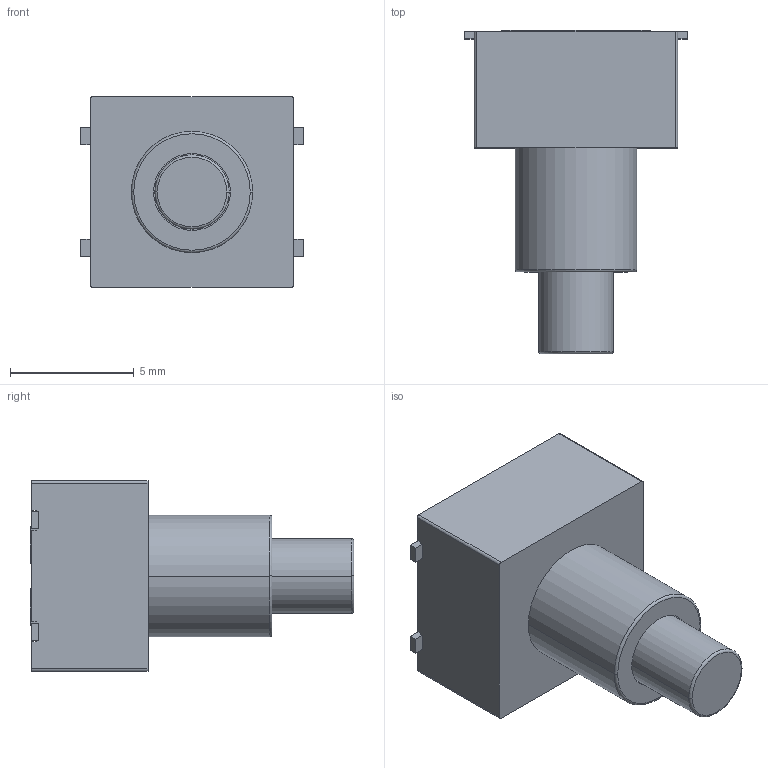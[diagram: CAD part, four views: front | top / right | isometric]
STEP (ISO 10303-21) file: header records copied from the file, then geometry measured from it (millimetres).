
FILE_DESCRIPTION((''),'2;1');
FILE_NAME('JQA6060Y-C1301-01GH-1-104_ASM','2026-05-13T15:15:55',('Admin'),(''),'CREO PARAMETRIC BY PTC INC, 2019224','CREO PARAMETRIC BY PTC INC, 2019224','');
FILE_SCHEMA(('AUTOMOTIVE_DESIGN { 1 0 10303 214 1 1 1 1 }'));
Length unit declared in the file: millimetre
Products named in the file (3): JQA6060Y-C1301-01GH-1-104_01; JQA6060Y-C1301-01GH-1-104_02; JQA6060Y-C1301-01GH-1-104_ASM
Assembly tree (2 placements, depth 2):
  JQA6060Y-C1301-01GH-1-104_ASM
    JQA6060Y-C1301-01GH-1-104_01
    JQA6060Y-C1301-01GH-1-104_02
Bounding box: 9 x 13.05 x 7.7 mm (x, y, z)
Volume: 446.5 mm3; surface area: 595.9 mm2
Topology: 2 solids, 2 shells, 101 faces, 279 edges, 186 vertices
Faces by surface type: plane 83, cylinder 14, torus 4
Entity records: 4473 total; most frequent: CARTESIAN_POINT 580, ORIENTED_EDGE 556, DIRECTION 535, PRESENTATION_STYLE_ASSIGNMENT 304, STYLED_ITEM 284, CURVE_STYLE 282, EDGE_CURVE 278, VECTOR 243
